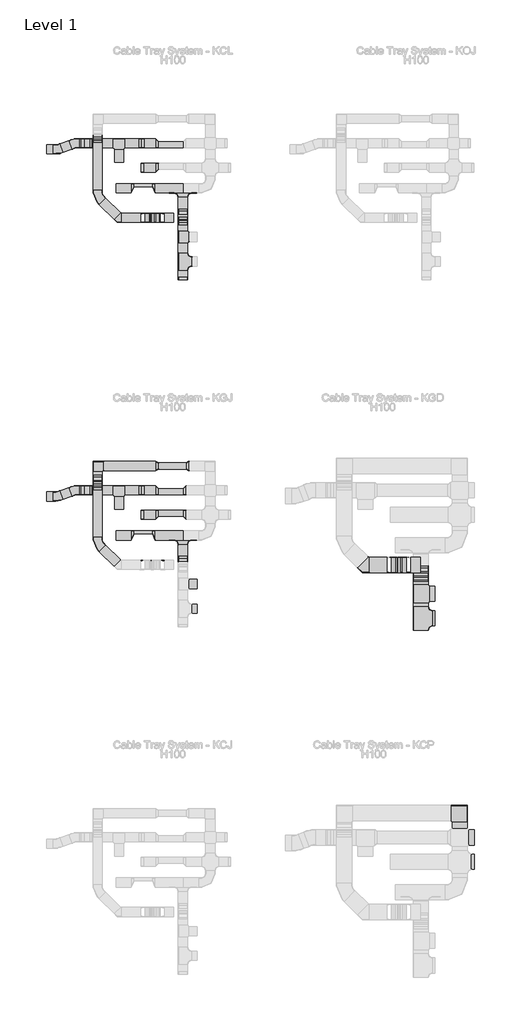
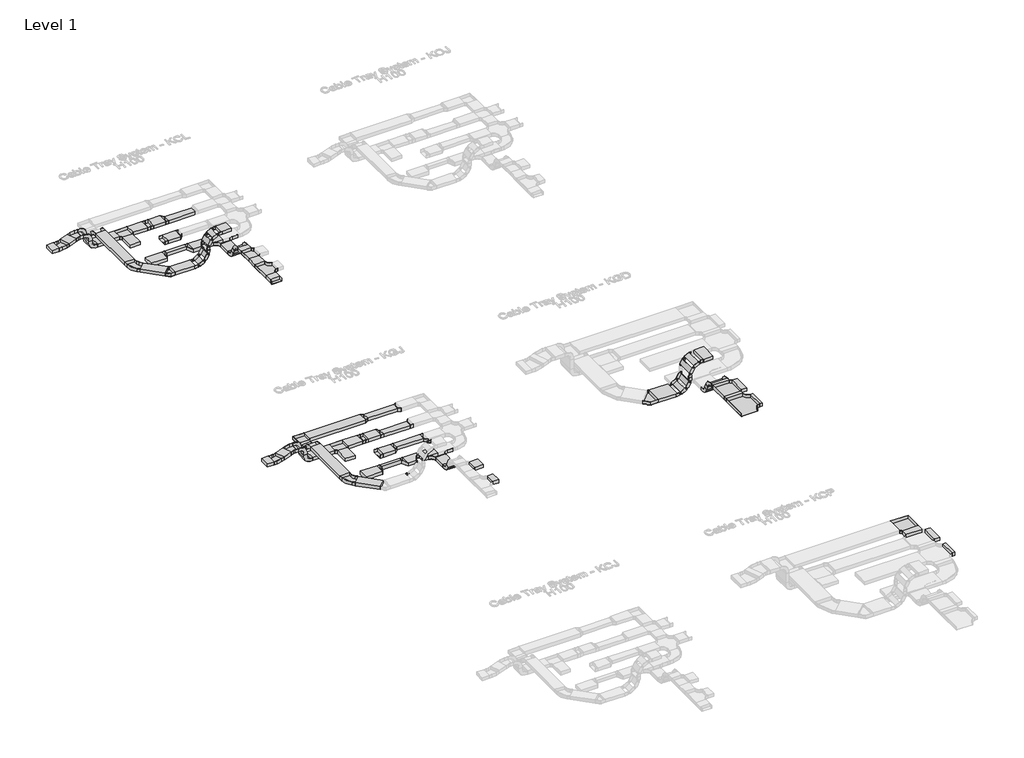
# One storey, part 20 of 106: 73 cable carrier fittings, 52 cable carrier segments.
"""IFC4 building model written with IfcOpenShell, lengths in millimetres."""

from ifc_helpers import new_model, si_unit, frame, origin, place, context, project, spatial, polyline, outline, extrude, transform, mapped, element, save
from components import cable_carrier_fitting_cb057536, cable_carrier_fitting_d4f283aa, cable_carrier_fitting_389af67d, cable_carrier_fitting_ab346bf8, cable_carrier_fitting_c163f1ca, cable_carrier_fitting_32826c86, cable_carrier_fitting_42195290, cable_carrier_fitting_1d3f857e, cable_carrier_fitting_81c76d70, cable_carrier_fitting_e69bf5bc, cable_carrier_fitting_b7b75895, cable_carrier_fitting_0afdfe74, cable_carrier_fitting_3a6d649d, cable_carrier_fitting_2d5aa353, cable_carrier_fitting_83230dc4, cable_carrier_fitting_3cbe9e62, cable_carrier_fitting_c86838e9, cable_carrier_fitting_985dcf24, cable_carrier_fitting_ca5a2d19, cable_carrier_fitting_8809d5a3, cable_carrier_fitting_385655bb, cable_carrier_fitting_dcc5a5fb, cable_carrier_fitting_57a60f3e, cable_carrier_fitting_2246cbb3, cable_carrier_fitting_0a0ebc2e, cable_carrier_fitting_3d71c57e, cable_carrier_fitting_46bfce34, cable_carrier_fitting_31e9e336, cable_carrier_fitting_f50788b4, cable_carrier_fitting_851eb94e, cable_carrier_fitting_844d2b92, cable_carrier_fitting_c0e00dde

model = new_model("IFC4")

# Units and contexts
model_context = context("Model", 3, world=origin())
ifc_project = project(units=[si_unit("LENGTHUNIT", "METRE", prefix="MILLI")], contexts=[model_context])

# Site, building, storey
site = spatial("IfcSite", under=ifc_project)
building = spatial("IfcBuilding", under=site)
storey = spatial("IfcBuildingStorey", under=building, Name="Level 1", Elevation=0.0)

# Cable carrier fittings
placement = place(None, origin())
cable_carrier_fitting_shape = cable_carrier_fitting_cb057536(model_context)
element("IfcCableCarrierFitting", 1, ObjectType="BAKS_BEND_Adjustable vertical bend element_EL : ELP_H100", at=placement, inside=storey, context=model_context, shape_type="MappedRepresentation", body=[
    mapped(cable_carrier_fitting_shape, transform((158633.2340999, 43331.3714214, 322.7153903), x_axis=(0.4999999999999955, 0.0, 0.8660254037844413), y_axis=(0.0, 1.0, 0.0), z_axis=(-0.8660254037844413, 0.0, 0.4999999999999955))),
])
element("IfcCableCarrierFitting", 2, ObjectType="BAKS_BEND_Adjustable vertical bend element_EL : ELP_H100", at=placement, inside=storey, context=model_context, shape_type="MappedRepresentation", body=[
    mapped(cable_carrier_fitting_shape, transform((158436.5219776, 43331.3714214, 223.0), x_axis=(0.8660254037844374, 0.0, 0.5000000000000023), y_axis=(0.0, 1.0, 0.0), z_axis=(-0.5000000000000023, 0.0, 0.8660254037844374))),
])
element("IfcCableCarrierFitting", 3, ObjectType="BAKS_BEND_Adjustable vertical bend element_EL : ELP_H100", at=placement, inside=storey, context=model_context, shape_type="MappedRepresentation", body=[
    mapped(cable_carrier_fitting_shape, transform((158841.4494902, 43331.3714214, 936.9011537), x_axis=(0.8660254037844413, 0.0, 0.4999999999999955), y_axis=(0.0, -1.0, 0.0), z_axis=(0.4999999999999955, 0.0, -0.8660254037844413))),
])
element("IfcCableCarrierFitting", 4, ObjectType="BAKS_BEND_Adjustable vertical bend element_EL : ELP_H100", at=placement, inside=storey, context=model_context, shape_type="MappedRepresentation", body=[
    mapped(cable_carrier_fitting_shape, transform((158741.7340999, 43331.3714214, 740.1890314), x_axis=(0.5000000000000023, 0.0, 0.8660254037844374), y_axis=(0.0, -1.0, 0.0), z_axis=(0.8660254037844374, 0.0, -0.5000000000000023))),
])
cable_carrier_fitting_2_shape = cable_carrier_fitting_d4f283aa(model_context)
element("IfcCableCarrierFitting", 5, ObjectType="BAKS_Reducer : RK(S/L/P)J_H100", at=placement, inside=storey, context=model_context, shape_type="MappedRepresentation", body=[
    mapped(cable_carrier_fitting_2_shape, transform((158399.3329462, 45780.8714214, 0.0), x_axis=(1.0, 0.0, 0.0), y_axis=(0.0, 1.0, 0.0), z_axis=(0.0, 0.0, 1.0))),
])
element("IfcCableCarrierFitting", 6, ObjectType="BAKS_Reducer : RK(S/L/P)J_H100", at=placement, inside=storey, context=model_context, shape_type="MappedRepresentation", body=[
    mapped(cable_carrier_fitting_2_shape, transform((158399.3329462, 45780.8714214, 0.0), x_axis=(-1.0, 0.0, 0.0), y_axis=(0.0, -1.0, 0.0), z_axis=(0.0, 0.0, 1.0))),
])
element("IfcCableCarrierFitting", 7, ObjectType="BAKS_Reducer : RK(S/L/P)J_H100", at=placement, inside=storey, context=model_context, shape_type="MappedRepresentation", body=[
    mapped(cable_carrier_fitting_2_shape, transform((158377.8329462, 44980.8714214, 0.0), x_axis=(1.0, 0.0, 0.0), y_axis=(0.0, 1.0, 0.0), z_axis=(0.0, 0.0, 1.0))),
])
element("IfcCableCarrierFitting", 8, ObjectType="BAKS_Reducer : RK(S/L/P)J_H100", at=placement, inside=storey, context=model_context, shape_type="MappedRepresentation", body=[
    mapped(cable_carrier_fitting_2_shape, transform((159753.8329462, 41294.2974728, 432.5277378), x_axis=(0.0, 1.0, 0.0), y_axis=(-1.0, 0.0, 0.0), z_axis=(0.0, 0.0, 1.0))),
])
element("IfcCableCarrierFitting", 9, ObjectType="BAKS_Reducer : RK(S/L/P)J_H100", at=placement, inside=storey, context=model_context, shape_type="MappedRepresentation", body=[
    mapped(cable_carrier_fitting_2_shape, transform((158399.3329462, 34380.8714214, 0.0), x_axis=(1.0, 0.0, 0.0), y_axis=(0.0, 1.0, 0.0), z_axis=(0.0, 0.0, 1.0))),
])
element("IfcCableCarrierFitting", 10, ObjectType="BAKS_Reducer : RK(S/L/P)J_H100", at=placement, inside=storey, context=model_context, shape_type="MappedRepresentation", body=[
    mapped(cable_carrier_fitting_2_shape, transform((158399.3329462, 34380.8714214, 0.0), x_axis=(-1.0, 0.0, 0.0), y_axis=(0.0, -1.0, 0.0), z_axis=(0.0, 0.0, 1.0))),
])
element("IfcCableCarrierFitting", 11, ObjectType="BAKS_Reducer : RK(S/L/P)J_H100", at=placement, inside=storey, context=model_context, shape_type="MappedRepresentation", body=[
    mapped(cable_carrier_fitting_2_shape, transform((158377.8329462, 33580.8714214, 0.0), x_axis=(1.0, 0.0, 0.0), y_axis=(0.0, 1.0, 0.0), z_axis=(0.0, 0.0, 1.0))),
])
cable_carrier_fitting_3_shape = cable_carrier_fitting_389af67d(model_context)
element("IfcCableCarrierFitting", 12, ObjectType="BAKS_Reducer : RK(S/L/P)J_H100", at=placement, inside=storey, context=model_context, shape_type="MappedRepresentation", body=[
    mapped(cable_carrier_fitting_3_shape, transform((158856.8329462, 35180.8714214, 0.0), x_axis=(1.0, 0.0, 0.0), y_axis=(0.0, 1.0, 0.0), z_axis=(0.0, 0.0, 1.0))),
])
cable_carrier_fitting_4_shape = cable_carrier_fitting_ab346bf8(model_context)
element("IfcCableCarrierFitting", 13, ObjectType="BAKS_Reducer : RK(S/L/P)J_H100", at=placement, inside=storey, context=model_context, shape_type="MappedRepresentation", body=[
    mapped(cable_carrier_fitting_4_shape, transform((159856.8329462, 35180.8714214, 0.0), x_axis=(1.0, 0.0, 0.0), y_axis=(0.0, 1.0, 0.0), z_axis=(0.0, 0.0, 1.0))),
])
cable_carrier_fitting_5_shape = cable_carrier_fitting_c163f1ca(model_context)
element("IfcCableCarrierFitting", 14, ObjectType="BAKS_Reducer : RK(S/L/P)J_H100", at=placement, inside=storey, context=model_context, shape_type="MappedRepresentation", body=[
    mapped(cable_carrier_fitting_5_shape, transform((158951.8329462, 45030.8714214, 0.0), x_axis=(-1.0, 0.0, 0.0), y_axis=(0.0, -1.0, 0.0), z_axis=(0.0, 0.0, 1.0))),
])
element("IfcCableCarrierFitting", 15, ObjectType="BAKS_Reducer : RK(S/L/P)J_H100", at=placement, inside=storey, context=model_context, shape_type="MappedRepresentation", body=[
    mapped(cable_carrier_fitting_5_shape, transform((159761.8329462, 34330.8714214, 0.0), x_axis=(1.0, 0.0, 0.0), y_axis=(0.0, 1.0, 0.0), z_axis=(0.0, 0.0, 1.0))),
])
element("IfcCableCarrierFitting", 16, ObjectType="BAKS_Reducer : RK(S/L/P)J_H100", at=placement, inside=storey, context=model_context, shape_type="MappedRepresentation", body=[
    mapped(cable_carrier_fitting_5_shape, transform((158951.8329462, 33630.8714214, 0.0), x_axis=(-1.0, 0.0, 0.0), y_axis=(0.0, -1.0, 0.0), z_axis=(0.0, 0.0, 1.0))),
])
cable_carrier_fitting_6_shape = cable_carrier_fitting_32826c86(model_context)
element("IfcCableCarrierFitting", 17, ObjectType="BAKS_Reducer : RK(S/L/P)J_H100", at=placement, inside=storey, context=model_context, shape_type="MappedRepresentation", body=[
    mapped(cable_carrier_fitting_6_shape, transform((158951.8329462, 45730.8714214, 0.0), x_axis=(-1.0, 0.0, 0.0), y_axis=(0.0, -1.0, 0.0), z_axis=(0.0, 0.0, 1.0))),
])
element("IfcCableCarrierFitting", 18, ObjectType="BAKS_Reducer : RK(S/L/P)J_H100", at=placement, inside=storey, context=model_context, shape_type="MappedRepresentation", body=[
    mapped(cable_carrier_fitting_6_shape, transform((158951.8329462, 34330.8714214, 0.0), x_axis=(-1.0, 0.0, 0.0), y_axis=(0.0, -1.0, 0.0), z_axis=(0.0, 0.0, 1.0))),
])
element("IfcCableCarrierFitting", 19, ObjectType="BAKS_Reducer : RK(S/L/P)J_H100", at=placement, inside=storey, context=model_context, shape_type="MappedRepresentation", body=[
    mapped(cable_carrier_fitting_6_shape, transform((159761.8329462, 33630.8714214, 0.0), x_axis=(1.0, 0.0, 0.0), y_axis=(0.0, 1.0, 0.0), z_axis=(0.0, 0.0, 1.0))),
])
cable_carrier_fitting_7_shape = cable_carrier_fitting_42195290(model_context)
element("IfcCableCarrierFitting", 20, ObjectType="BAKS_Horizontal bend : KKJ/KKMJ_H100", at=placement, inside=storey, context=model_context, shape_type="MappedRepresentation", body=[
    mapped(cable_carrier_fitting_7_shape, transform((156956.8329462, 35180.8714214, 0.0), x_axis=(-1.0, 0.0, 0.0), y_axis=(0.0, -1.0, 0.0), z_axis=(0.0, 0.0, 1.0))),
])
cable_carrier_fitting_8_shape = cable_carrier_fitting_1d3f857e(model_context)
element("IfcCableCarrierFitting", 21, ObjectType="BAKS_Horizontal bend radius : KKPJ/KKMPJ_H100", at=placement, inside=storey, context=model_context, shape_type="MappedRepresentation", body=[
    mapped(cable_carrier_fitting_8_shape, transform((156956.8329462, 44030.8714214, 235.0), x_axis=(0.0, -1.0, 0.0), y_axis=(1.0, 0.0, 0.0), z_axis=(0.0, 0.0, 1.0))),
])
element("IfcCableCarrierFitting", 22, ObjectType="BAKS_Horizontal bend radius : KKPJ/KKMPJ_H100", at=placement, inside=storey, context=model_context, shape_type="MappedRepresentation", body=[
    mapped(cable_carrier_fitting_8_shape, transform((156956.8329462, 32630.8714214, 235.0), x_axis=(0.0, -1.0, 0.0), y_axis=(1.0, 0.0, 0.0), z_axis=(0.0, 0.0, 1.0))),
])
cable_carrier_fitting_9_shape = cable_carrier_fitting_81c76d70(model_context)
element("IfcCableCarrierFitting", 23, ObjectType="BAKS_Horizontal addon tee : TKDJ_H100", at=placement, inside=storey, context=model_context, shape_type="MappedRepresentation", body=[
    mapped(cable_carrier_fitting_9_shape, transform((159753.8329462, 44299.8714214, 0.0), x_axis=(1.0, 0.0, 0.0), y_axis=(0.0, 1.0, 0.0), z_axis=(0.0, 0.0, 1.0))),
])
element("IfcCableCarrierFitting", 24, ObjectType="BAKS_Horizontal addon tee : TKDJ_H100", at=placement, inside=storey, context=model_context, shape_type="MappedRepresentation", body=[
    mapped(cable_carrier_fitting_9_shape, transform((159753.8329462, 32899.8714214, 0.0), x_axis=(1.0, 0.0, 0.0), y_axis=(0.0, 1.0, 0.0), z_axis=(0.0, 0.0, 1.0))),
])
cable_carrier_fitting_10_shape = cable_carrier_fitting_e69bf5bc(model_context)
element("IfcCableCarrierFitting", 25, ObjectType="BAKS_Reducer : RK(S/L/P)J_H100", at=placement, inside=storey, context=model_context, shape_type="MappedRepresentation", body=[
    mapped(cable_carrier_fitting_10_shape, transform((158750.8329462, 44399.8714214, 0.0), x_axis=(1.0, 0.0, 0.0), y_axis=(0.0, 1.0, 0.0), z_axis=(0.0, 0.0, 1.0))),
])
element("IfcCableCarrierFitting", 26, ObjectType="BAKS_Reducer : RK(S/L/P)J_H100", at=placement, inside=storey, context=model_context, shape_type="MappedRepresentation", body=[
    mapped(cable_carrier_fitting_10_shape, transform((158750.8329462, 32999.8714214, 0.0), x_axis=(1.0, 0.0, 0.0), y_axis=(0.0, 1.0, 0.0), z_axis=(0.0, 0.0, 1.0))),
])
cable_carrier_fitting_11_shape = cable_carrier_fitting_b7b75895(model_context)
element("IfcCableCarrierFitting", 27, ObjectType="BAKS_Reducer : RK(S/L/P)J_H100", at=placement, inside=storey, context=model_context, shape_type="MappedRepresentation", body=[
    mapped(cable_carrier_fitting_11_shape, transform((158152.8329462, 44399.8714214, 0.0), x_axis=(-1.0, 0.0, 0.0), y_axis=(0.0, -1.0, 0.0), z_axis=(0.0, 0.0, 1.0))),
])
element("IfcCableCarrierFitting", 28, ObjectType="BAKS_Reducer : RK(S/L/P)J_H100", at=placement, inside=storey, context=model_context, shape_type="MappedRepresentation", body=[
    mapped(cable_carrier_fitting_11_shape, transform((158152.8329462, 32999.8714214, 0.0), x_axis=(-1.0, 0.0, 0.0), y_axis=(0.0, -1.0, 0.0), z_axis=(0.0, 0.0, 1.0))),
])
cable_carrier_fitting_12_shape = cable_carrier_fitting_0afdfe74(model_context)
element("IfcCableCarrierFitting", 29, ObjectType="BAKS_Horizontal tee : TKJ_H100", at=placement, inside=storey, context=model_context, shape_type="MappedRepresentation", body=[
    mapped(cable_carrier_fitting_12_shape, transform((157656.3329462, 45780.8714214, 0.0), x_axis=(1.0, 0.0, 0.0), y_axis=(0.0, 1.0, 0.0), z_axis=(0.0, 0.0, 1.0))),
])
element("IfcCableCarrierFitting", 30, ObjectType="BAKS_Horizontal tee : TKJ_H100", at=placement, inside=storey, context=model_context, shape_type="MappedRepresentation", body=[
    mapped(cable_carrier_fitting_12_shape, transform((159753.8329462, 42703.8631068, 432.5277378), x_axis=(0.0, 1.0, 0.0), y_axis=(-1.0, 0.0, 0.0), z_axis=(0.0, 0.0, 1.0))),
])
element("IfcCableCarrierFitting", 31, ObjectType="BAKS_Horizontal tee : TKJ_H100", at=placement, inside=storey, context=model_context, shape_type="MappedRepresentation", body=[
    mapped(cable_carrier_fitting_12_shape, transform((157656.3329462, 34380.8714214, 0.0), x_axis=(1.0, 0.0, 0.0), y_axis=(0.0, 1.0, 0.0), z_axis=(0.0, 0.0, 1.0))),
])
cable_carrier_fitting_13_shape = cable_carrier_fitting_3a6d649d(model_context)
element("IfcCableCarrierFitting", 32, ObjectType="BAKS_Horizontal bend radius : KKPJ/KKMPJ_H100", at=placement, inside=storey, context=model_context, shape_type="MappedRepresentation", body=[
    mapped(cable_carrier_fitting_13_shape, transform((156186.1981218, 45780.8714214, 438.0), x_axis=(-1.0, 0.0, 0.0), y_axis=(0.0, -1.0, 0.0), z_axis=(0.0, 0.0, 1.0))),
])
element("IfcCableCarrierFitting", 33, ObjectType="BAKS_Horizontal bend radius : KKPJ/KKMPJ_H100", at=placement, inside=storey, context=model_context, shape_type="MappedRepresentation", body=[
    mapped(cable_carrier_fitting_13_shape, transform((155630.7130894, 45578.691404, 438.0), x_axis=(1.0, 0.0, 0.0), y_axis=(0.0, 1.0, 0.0), z_axis=(0.0, 0.0, 1.0))),
])
element("IfcCableCarrierFitting", 34, ObjectType="BAKS_Horizontal bend radius : KKPJ/KKMPJ_H100", at=placement, inside=storey, context=model_context, shape_type="MappedRepresentation", body=[
    mapped(cable_carrier_fitting_13_shape, transform((156186.1981218, 34380.8714214, 438.0), x_axis=(-1.0, 0.0, 0.0), y_axis=(0.0, -1.0, 0.0), z_axis=(0.0, 0.0, 1.0))),
])
element("IfcCableCarrierFitting", 35, ObjectType="BAKS_Horizontal bend radius : KKPJ/KKMPJ_H100", at=placement, inside=storey, context=model_context, shape_type="MappedRepresentation", body=[
    mapped(cable_carrier_fitting_13_shape, transform((155630.7130894, 34178.691404, 438.0), x_axis=(1.0, 0.0, 0.0), y_axis=(0.0, 1.0, 0.0), z_axis=(0.0, 0.0, 1.0))),
])
cable_carrier_fitting_14_shape = cable_carrier_fitting_2d5aa353(model_context)
element("IfcCableCarrierFitting", 36, ObjectType="BAKS_BEND_Articulated connector_LGP : LGP_H100", at=placement, inside=storey, context=model_context, shape_type="MappedRepresentation", body=[
    mapped(cable_carrier_fitting_14_shape, transform((158457.3065873, 43181.3714214, 235.0), x_axis=(1.0, 0.0, 0.0), y_axis=(0.0, 0.0, 1.0), z_axis=(0.0, -1.0, 0.0))),
])
element("IfcCableCarrierFitting", 37, ObjectType="BAKS_BEND_Articulated connector_LGP : LGP_H100", at=placement, inside=storey, context=model_context, shape_type="MappedRepresentation", body=[
    mapped(cable_carrier_fitting_14_shape, transform((158753.7340999, 43481.3714214, 760.9736411), x_axis=(0.0, 0.0, 1.0), y_axis=(1.0, 0.0, 0.0), z_axis=(0.0, 1.0, 0.0))),
])
element("IfcCableCarrierFitting", 38, ObjectType="BAKS_BEND_Articulated connector_LGP : LGP_H100", at=placement, inside=storey, context=model_context, shape_type="MappedRepresentation", body=[
    mapped(cable_carrier_fitting_14_shape, transform((158753.7340999, 32081.3714214, 760.9736411), x_axis=(0.0, 0.0, 1.0), y_axis=(1.0, 0.0, 0.0), z_axis=(0.0, 1.0, 0.0))),
])
element("IfcCableCarrierFitting", 39, ObjectType="BAKS_BEND_Articulated connector_LGP : LGP_H100", at=placement, inside=storey, context=model_context, shape_type="MappedRepresentation", body=[
    mapped(cable_carrier_fitting_14_shape, transform((166557.3065873, 31681.3714214, 235.0), x_axis=(1.0, 0.0, 0.0), y_axis=(0.0, 0.0, 1.0), z_axis=(0.0, -1.0, 0.0))),
])
cable_carrier_fitting_15_shape = cable_carrier_fitting_83230dc4(model_context)
element("IfcCableCarrierFitting", 40, ObjectType="BAKS_BEND_Articulated connector_LGP : LGP_H100", at=placement, inside=storey, context=model_context, shape_type="MappedRepresentation", body=[
    mapped(cable_carrier_fitting_15_shape, transform((158753.7340999, 43181.3714214, 531.4275126), x_axis=(0.4999999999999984, 0.0, 0.8660254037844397), y_axis=(-0.8660254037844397, 0.0, 0.4999999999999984), z_axis=(0.0, -1.0, 0.0))),
])
element("IfcCableCarrierFitting", 41, ObjectType="BAKS_BEND_Articulated connector_LGP : LGP_H100", at=placement, inside=storey, context=model_context, shape_type="MappedRepresentation", body=[
    mapped(cable_carrier_fitting_15_shape, transform((159050.1616126, 43481.3714214, 1057.4011537), x_axis=(0.8660254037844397, 0.0, 0.4999999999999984), y_axis=(0.4999999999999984, 0.0, -0.8660254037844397), z_axis=(0.0, 1.0, 0.0))),
])
element("IfcCableCarrierFitting", 42, ObjectType="BAKS_BEND_Articulated connector_LGP : LGP_H100", at=placement, inside=storey, context=model_context, shape_type="MappedRepresentation", body=[
    mapped(cable_carrier_fitting_15_shape, transform((159050.1616126, 32081.3714214, 1057.4011537), x_axis=(0.8660254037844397, 0.0, 0.4999999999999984), y_axis=(0.4999999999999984, 0.0, -0.8660254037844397), z_axis=(0.0, 1.0, 0.0))),
])
element("IfcCableCarrierFitting", 43, ObjectType="BAKS_BEND_Articulated connector_LGP : LGP_H100", at=placement, inside=storey, context=model_context, shape_type="MappedRepresentation", body=[
    mapped(cable_carrier_fitting_15_shape, transform((166853.7340999, 31681.3714214, 531.4275126), x_axis=(0.4999999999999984, 0.0, 0.8660254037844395), y_axis=(-0.8660254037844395, 0.0, 0.4999999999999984), z_axis=(0.0, -1.0, 0.0))),
])
cable_carrier_fitting_16_shape = cable_carrier_fitting_3cbe9e62(model_context)
element("IfcCableCarrierFitting", 44, ObjectType="BAKS_BEND_Articulated connector_LGP : LGP_H100", at=placement, inside=storey, context=model_context, shape_type="MappedRepresentation", body=[
    mapped(cable_carrier_fitting_16_shape, transform((158753.7340999, 43481.3714214, 531.4275126), x_axis=(0.4999999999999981, 0.0, 0.8660254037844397), y_axis=(0.8660254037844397, 0.0, -0.4999999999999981), z_axis=(0.0, 1.0, 0.0))),
])
element("IfcCableCarrierFitting", 45, ObjectType="BAKS_BEND_Articulated connector_LGP : LGP_H100", at=placement, inside=storey, context=model_context, shape_type="MappedRepresentation", body=[
    mapped(cable_carrier_fitting_16_shape, transform((159050.1616126, 43181.3714214, 1057.4011537), x_axis=(0.8660254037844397, 0.0, 0.4999999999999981), y_axis=(-0.4999999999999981, 0.0, 0.8660254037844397), z_axis=(0.0, -1.0, 0.0))),
])
element("IfcCableCarrierFitting", 46, ObjectType="BAKS_BEND_Articulated connector_LGP : LGP_H100", at=placement, inside=storey, context=model_context, shape_type="MappedRepresentation", body=[
    mapped(cable_carrier_fitting_16_shape, transform((158753.7340999, 32081.3714214, 531.4275126), x_axis=(0.4999999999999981, 0.0, 0.8660254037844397), y_axis=(0.8660254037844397, 0.0, -0.4999999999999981), z_axis=(0.0, 1.0, 0.0))),
])
element("IfcCableCarrierFitting", 47, ObjectType="BAKS_BEND_Articulated connector_LGP : LGP_H100", at=placement, inside=storey, context=model_context, shape_type="MappedRepresentation", body=[
    mapped(cable_carrier_fitting_16_shape, transform((167150.1616126, 31681.3714214, 1057.4011537), x_axis=(0.8660254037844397, 0.0, 0.4999999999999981), y_axis=(-0.4999999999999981, 0.0, 0.8660254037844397), z_axis=(0.0, -1.0, 0.0))),
])
cable_carrier_fitting_17_shape = cable_carrier_fitting_c86838e9(model_context)
element("IfcCableCarrierFitting", 48, ObjectType="BAKS_BEND_Articulated connector_LGP : LGP_H100", at=placement, inside=storey, context=model_context, shape_type="MappedRepresentation", body=[
    mapped(cable_carrier_fitting_17_shape, transform((158457.3065873, 43481.3714214, 235.0), x_axis=(1.0, 0.0, 0.0), y_axis=(0.0, 0.0, -1.0), z_axis=(0.0, 1.0, 0.0))),
])
element("IfcCableCarrierFitting", 49, ObjectType="BAKS_BEND_Articulated connector_LGP : LGP_H100", at=placement, inside=storey, context=model_context, shape_type="MappedRepresentation", body=[
    mapped(cable_carrier_fitting_17_shape, transform((158753.7340999, 43181.3714214, 760.9736411), x_axis=(0.0, 0.0, 1.0), y_axis=(-1.0, 0.0, 0.0), z_axis=(0.0, -1.0, 0.0))),
])
element("IfcCableCarrierFitting", 50, ObjectType="BAKS_BEND_Articulated connector_LGP : LGP_H100", at=placement, inside=storey, context=model_context, shape_type="MappedRepresentation", body=[
    mapped(cable_carrier_fitting_17_shape, transform((158457.3065873, 32081.3714214, 235.0), x_axis=(1.0, 0.0, 0.0), y_axis=(0.0, 0.0, -1.0), z_axis=(0.0, 1.0, 0.0))),
])
element("IfcCableCarrierFitting", 51, ObjectType="BAKS_BEND_Articulated connector_LGP : LGP_H100", at=placement, inside=storey, context=model_context, shape_type="MappedRepresentation", body=[
    mapped(cable_carrier_fitting_17_shape, transform((166853.7340999, 31681.3714214, 760.9736411), x_axis=(0.0, 0.0, 1.0), y_axis=(-1.0, 0.0, 0.0), z_axis=(0.0, -1.0, 0.0))),
])
cable_carrier_fitting_18_shape = cable_carrier_fitting_985dcf24(model_context)
element("IfcCableCarrierFitting", 52, ObjectType="BAKS_Horizontal bend : KKJ/KKMJ_H100", at=placement, inside=storey, context=model_context, shape_type="MappedRepresentation", body=[
    mapped(cable_carrier_fitting_18_shape, transform((157656.3329462, 43331.3714214, 235.0), x_axis=(0.707106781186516, -0.707106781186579, 0.0), y_axis=(0.707106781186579, 0.707106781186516, 0.0), z_axis=(0.0, 0.0, 1.0))),
])
cable_carrier_fitting_19_shape = cable_carrier_fitting_ca5a2d19(model_context)
element("IfcCableCarrierFitting", 53, ObjectType="BAKS_Horizontal tee radius : TKPJ_H100", at=placement, inside=storey, context=model_context, shape_type="MappedRepresentation", body=[
    mapped(cable_carrier_fitting_19_shape, transform((159753.8329462, 41896.5802898, 432.5277378), x_axis=(0.0, 1.0, 0.0), y_axis=(-1.0, 0.0, 0.0), z_axis=(0.0, 0.0, 1.0))),
])
cable_carrier_fitting_20_shape = cable_carrier_fitting_8809d5a3(model_context)
element("IfcCableCarrierFitting", 54, ObjectType="BAKS_Horizontal tee : TKJ_H100", at=placement, inside=storey, context=model_context, shape_type="MappedRepresentation", body=[
    mapped(cable_carrier_fitting_20_shape, transform((167573.8329462, 30983.8631068, 432.5277378), x_axis=(0.0, 1.0, 0.0), y_axis=(-1.0, 0.0, 0.0), z_axis=(0.0, 0.0, 1.0))),
])
cable_carrier_fitting_21_shape = cable_carrier_fitting_385655bb(model_context)
element("IfcCableCarrierFitting", 55, ObjectType="BAKS_Horizontal tee radius : TKPJ_H100", at=placement, inside=storey, context=model_context, shape_type="MappedRepresentation", body=[
    mapped(cable_carrier_fitting_21_shape, transform((167573.8329462, 30176.5802898, 432.5277378), x_axis=(0.0, 1.0, 0.0), y_axis=(-1.0, 0.0, 0.0), z_axis=(0.0, 0.0, 1.0))),
])
cable_carrier_fitting_22_shape = cable_carrier_fitting_dcc5a5fb(model_context)
element("IfcCableCarrierFitting", 56, ObjectType="BAKS_Horizontal bend : KKP/KKMP_H100", at=placement, inside=storey, context=model_context, shape_type="MappedRepresentation", body=[
    mapped(cable_carrier_fitting_22_shape, transform((168856.8329462, 23780.8714214, 0.0), x_axis=(0.0, 1.0, 0.0), y_axis=(-1.0, 0.0, 0.0), z_axis=(0.0, 0.0, 1.0))),
])
cable_carrier_fitting_23_shape = cable_carrier_fitting_57a60f3e(model_context)
element("IfcCableCarrierFitting", 57, ObjectType="BAKS_Horizontal bend : KKP/KKMP_H100", at=placement, inside=storey, context=model_context, shape_type="MappedRepresentation", body=[
    mapped(cable_carrier_fitting_23_shape, transform((165756.3329462, 31931.3714214, 235.0), x_axis=(0.707106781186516, -0.707106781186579, 0.0), y_axis=(0.707106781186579, 0.707106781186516, 0.0), z_axis=(0.0, 0.0, 1.0))),
])
cable_carrier_fitting_24_shape = cable_carrier_fitting_2246cbb3(model_context)
element("IfcCableCarrierFitting", 58, ObjectType="BAKS_BEND_Adjustable vertical bend element_EL : ELP_H100", at=placement, inside=storey, context=model_context, shape_type="MappedRepresentation", body=[
    mapped(cable_carrier_fitting_24_shape, transform((166733.2340999, 31931.3714214, 322.7153903), x_axis=(0.4999999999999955, 0.0, 0.8660254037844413), y_axis=(0.0, 1.0, 0.0), z_axis=(-0.8660254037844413, 0.0, 0.4999999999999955))),
])
element("IfcCableCarrierFitting", 59, ObjectType="BAKS_BEND_Adjustable vertical bend element_EL : ELP_H100", at=placement, inside=storey, context=model_context, shape_type="MappedRepresentation", body=[
    mapped(cable_carrier_fitting_24_shape, transform((166536.5219776, 31931.3714214, 223.0), x_axis=(0.8660254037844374, 0.0, 0.5000000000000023), y_axis=(0.0, 1.0, 0.0), z_axis=(-0.5000000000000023, 0.0, 0.8660254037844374))),
])
element("IfcCableCarrierFitting", 60, ObjectType="BAKS_BEND_Adjustable vertical bend element_EL : ELP_H100", at=placement, inside=storey, context=model_context, shape_type="MappedRepresentation", body=[
    mapped(cable_carrier_fitting_24_shape, transform((166941.4494902, 31931.3714214, 936.9011537), x_axis=(0.8660254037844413, 0.0, 0.4999999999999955), y_axis=(0.0, -1.0, 0.0), z_axis=(0.4999999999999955, 0.0, -0.8660254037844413))),
])
element("IfcCableCarrierFitting", 61, ObjectType="BAKS_BEND_Adjustable vertical bend element_EL : ELP_H100", at=placement, inside=storey, context=model_context, shape_type="MappedRepresentation", body=[
    mapped(cable_carrier_fitting_24_shape, transform((166841.7340999, 31931.3714214, 740.1890314), x_axis=(0.5000000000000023, 0.0, 0.8660254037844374), y_axis=(0.0, -1.0, 0.0), z_axis=(0.8660254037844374, 0.0, -0.5000000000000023))),
])
cable_carrier_fitting_25_shape = cable_carrier_fitting_0a0ebc2e(model_context)
element("IfcCableCarrierFitting", 62, ObjectType="BAKS_KK_Vertical bend INTERNAL_LU : LUNJ_H100", at=placement, inside=storey, context=model_context, shape_type="MappedRepresentation", body=[
    mapped(cable_carrier_fitting_25_shape, transform((156556.3329462, 45780.8714214, 438.0), x_axis=(0.0, 0.0, 1.0), y_axis=(-1.0, 0.0, 0.0), z_axis=(0.0, -1.0, 0.0))),
])
element("IfcCableCarrierFitting", 63, ObjectType="BAKS_KK_Vertical bend INTERNAL_LU : LUNJ_H100", at=placement, inside=storey, context=model_context, shape_type="MappedRepresentation", body=[
    mapped(cable_carrier_fitting_25_shape, transform((156556.3329462, 34380.8714214, 438.0), x_axis=(0.0, 0.0, 1.0), y_axis=(-1.0, 0.0, 0.0), z_axis=(0.0, -1.0, 0.0))),
])
cable_carrier_fitting_26_shape = cable_carrier_fitting_3d71c57e(model_context)
element("IfcCableCarrierFitting", 64, ObjectType="BAKS_KK_Vertical bend INTERNAL_LU : LUMNP_H100", at=placement, inside=storey, context=model_context, shape_type="MappedRepresentation", body=[
    mapped(cable_carrier_fitting_26_shape, transform((167573.8329462, 31537.0146558, 432.5277378), x_axis=(0.0, -0.42261826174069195, 0.9063077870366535), y_axis=(0.0, -0.9063077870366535, -0.42261826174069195), z_axis=(1.0, 0.0, 0.0))),
])
cable_carrier_fitting_27_shape = cable_carrier_fitting_46bfce34(model_context)
element("IfcCableCarrierFitting", 65, ObjectType="BAKS_KK_Vertical bend EXTERNAL_LU : LUNJ_H100", at=placement, inside=storey, context=model_context, shape_type="MappedRepresentation", body=[
    mapped(cable_carrier_fitting_27_shape, transform((156556.3329462, 45780.8714214, 0.0), x_axis=(-1.0, 0.0, 0.0), y_axis=(0.0, 0.0, 1.0), z_axis=(0.0, 1.0, 0.0))),
])
element("IfcCableCarrierFitting", 66, ObjectType="BAKS_KK_Vertical bend EXTERNAL_LU : LUNJ_H100", at=placement, inside=storey, context=model_context, shape_type="MappedRepresentation", body=[
    mapped(cable_carrier_fitting_27_shape, transform((156556.3329462, 34380.8714214, 0.0), x_axis=(-1.0, 0.0, 0.0), y_axis=(0.0, 0.0, 1.0), z_axis=(0.0, 1.0, 0.0))),
])
cable_carrier_fitting_28_shape = cable_carrier_fitting_31e9e336(model_context)
element("IfcCableCarrierFitting", 67, ObjectType="BAKS_KK_Vertical bend EXTERNAL_LU : LUNJ_H100", at=placement, inside=storey, context=model_context, shape_type="MappedRepresentation", body=[
    mapped(cable_carrier_fitting_28_shape, transform((167573.8329462, 31738.7056523, 0.0), x_axis=(0.0, -1.0, 0.0), y_axis=(0.0, 0.0, 1.0), z_axis=(-1.0, 0.0, 0.0))),
])
cable_carrier_fitting_29_shape = cable_carrier_fitting_f50788b4(model_context)
element("IfcCableCarrierFitting", 68, ObjectType="BAKS_KK_Vertical bend EXTERNAL_LU : LUMNJ_H100", at=placement, inside=storey, context=model_context, shape_type="MappedRepresentation", body=[
    mapped(cable_carrier_fitting_29_shape, transform((159753.8329462, 43458.7056523, 0.0), x_axis=(0.0, -1.0, 0.0), y_axis=(0.0, 0.0, 1.0), z_axis=(-1.0, 0.0, 0.0))),
])
element("IfcCableCarrierFitting", 69, ObjectType="BAKS_KK_Vertical bend EXTERNAL_LU : LUMNJ_H100", at=placement, inside=storey, context=model_context, shape_type="MappedRepresentation", body=[
    mapped(cable_carrier_fitting_29_shape, transform((159753.8329462, 32058.7056523, 0.0), x_axis=(0.0, -1.0, 0.0), y_axis=(0.0, 0.0, 1.0), z_axis=(-1.0, 0.0, 0.0))),
])
cable_carrier_fitting_30_shape = cable_carrier_fitting_851eb94e(model_context)
element("IfcCableCarrierFitting", 70, ObjectType="BAKS_KK_Vertical bend EXTERNAL_LU : LUMNJ_H100", at=placement, inside=storey, context=model_context, shape_type="MappedRepresentation", body=[
    mapped(cable_carrier_fitting_30_shape, transform((156956.8329462, 34760.8714214, 0.0), x_axis=(0.0, -1.0, 0.0), y_axis=(0.0, 0.0, 1.0), z_axis=(-1.0, 0.0, 0.0))),
])
cable_carrier_fitting_31_shape = cable_carrier_fitting_844d2b92(model_context)
element("IfcCableCarrierFitting", 71, ObjectType="BAKS_KK_Vertical bend INTERNAL_LU : LUMNJ_H100", at=placement, inside=storey, context=model_context, shape_type="MappedRepresentation", body=[
    mapped(cable_carrier_fitting_31_shape, transform((159753.8329462, 43257.0146558, 432.5277378), x_axis=(0.0, -0.42261826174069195, 0.9063077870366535), y_axis=(0.0, -0.9063077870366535, -0.42261826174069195), z_axis=(1.0, 0.0, 0.0))),
])
cable_carrier_fitting_32_shape = cable_carrier_fitting_c0e00dde(model_context)
element("IfcCableCarrierFitting", 72, ObjectType="BAKS_KK_Vertical bend INTERNAL_LU : LUMNJ_H100", at=placement, inside=storey, context=model_context, shape_type="MappedRepresentation", body=[
    mapped(cable_carrier_fitting_32_shape, transform((156956.8329462, 45925.8714214, 235.0), x_axis=(0.0, 1.0, 0.0), y_axis=(0.0, 0.0, -1.0), z_axis=(-1.0, 0.0, 0.0))),
])
element("IfcCableCarrierFitting", 73, ObjectType="BAKS_KK_Vertical bend INTERNAL_LU : LUMNJ_H100", at=placement, inside=storey, context=model_context, shape_type="MappedRepresentation", body=[
    mapped(cable_carrier_fitting_32_shape, transform((156956.8329462, 34525.8714214, 235.0), x_axis=(0.0, 1.0, 0.0), y_axis=(0.0, 0.0, -1.0), z_axis=(-1.0, 0.0, 0.0))),
])

# Cable carrier segments
element("IfcCableCarrierSegment", 74, ObjectType="BAKS - Cable tray H100 (KCL)", at=placement, inside=storey, context=model_context, shape_type="SweptSolid", body=[
    extrude(outline(polyline([(159761.8329462, 45830.8714214), (159761.8329462, 45630.8714214), (158951.8329462, 45630.8714214), (158951.8329462, 45830.8714214), (159761.8329462, 45830.8714214)])), frame((0.0, 0.0, -50.0), z_axis=(0.0, 0.0, 1.0), x_axis=(1.0, 0.0, 0.0)), (0.0, 0.0, 1.0), 100.0),
])
element("IfcCableCarrierSegment", 75, ObjectType="BAKS - Cable tray H100 (KCL)", at=placement, inside=storey, context=model_context, shape_type="SweptSolid", body=[
    extrude(outline(polyline([(158494.3329462, 45630.8714214), (158494.3329462, 45930.8714214), (158856.8329462, 45930.8714214), (158856.8329462, 45630.8714214), (158494.3329462, 45630.8714214)])), frame((0.0, 0.0, -50.0), z_axis=(0.0, 0.0, 1.0), x_axis=(1.0, 0.0, 0.0)), (0.0, 0.0, 1.0), 100.0),
])
element("IfcCableCarrierSegment", 76, ObjectType="BAKS - Cable tray H100 (KCL)", at=placement, inside=storey, context=model_context, shape_type="SweptSolid", body=[
    extrude(outline(polyline([(158472.8329462, 44830.8714214), (158472.8329462, 45130.8714214), (158856.8329462, 45130.8714214), (158856.8329462, 44830.8714214), (158472.8329462, 44830.8714214)])), frame((0.0, 0.0, -50.0), z_axis=(0.0, 0.0, 1.0), x_axis=(1.0, 0.0, 0.0)), (0.0, 0.0, 1.0), 100.0),
])
element("IfcCableCarrierSegment", 77, ObjectType="BAKS - Cable tray H100 (KCL)", at=placement, inside=storey, context=model_context, shape_type="SweptSolid", body=[
    extrude(outline(polyline([(157451.3329462, 45930.8714214), (157451.3329462, 45630.8714214), (156775.3329462, 45630.8714214), (156775.3329462, 45930.8714214), (157451.3329462, 45930.8714214)])), frame((0.0, 0.0, -50.0), z_axis=(0.0, 0.0, 1.0), x_axis=(1.0, 0.0, 0.0)), (0.0, 0.0, 1.0), 100.0),
])
element("IfcCableCarrierSegment", 78, ObjectType="BAKS - Cable tray H100 (KCL)", at=placement, inside=storey, context=model_context, shape_type="SweptSolid", body=[
    extrude(outline(polyline([(157506.3329462, 45575.8714214), (157806.3329462, 45575.8714214), (157806.3329462, 45155.8714214), (157506.3329462, 45155.8714214), (157506.3329462, 45575.8714214)])), frame((0.0, 0.0, -50.0), z_axis=(0.0, 0.0, 1.0), x_axis=(1.0, 0.0, 0.0)), (0.0, 0.0, 1.0), 100.0),
])
element("IfcCableCarrierSegment", 79, ObjectType="BAKS - Cable tray H100 (KCL)", at=placement, inside=storey, context=model_context, shape_type="SweptSolid", body=[
    extrude(outline(polyline([(158304.3329462, 45930.8714214), (158304.3329462, 45630.8714214), (157861.3329462, 45630.8714214), (157861.3329462, 45930.8714214), (158304.3329462, 45930.8714214)])), frame((0.0, 0.0, -50.0), z_axis=(0.0, 0.0, 1.0), x_axis=(1.0, 0.0, 0.0)), (0.0, 0.0, 1.0), 100.0),
])
element("IfcCableCarrierSegment", 80, ObjectType="BAKS - Cable tray H100 (KCL)", at=placement, inside=storey, context=model_context, shape_type="SweptSolid", body=[
    extrude(outline(polyline([(157106.8329462, 44250.9933545), (156806.8329462, 44250.9933545), (156806.8329462, 45791.8104549), (157106.8329462, 45791.8104549), (157106.8329462, 44250.9933545)])), frame((0.0, 0.0, 185.0), z_axis=(0.0, 0.0, 1.0), x_axis=(1.0, 0.0, 0.0)), (0.0, 0.0, 1.0), 100.0),
])
element("IfcCableCarrierSegment", 81, ObjectType="BAKS - Cable tray H100 (KCL)", at=placement, inside=storey, context=model_context, shape_type="SweptSolid", body=[
    extrude(outline(polyline([(157006.4166406, 43769.1556926), (157218.548675, 43981.287727), (157704.577679, 43495.258723), (157492.4456446, 43283.1266887), (157006.4166406, 43769.1556926)])), frame((0.0, 0.0, 185.0), z_axis=(0.0, 0.0, 1.0), x_axis=(1.0, 0.0, 0.0)), (0.0, 0.0, 1.0), 100.0),
])
element("IfcCableCarrierSegment", 82, ObjectType="BAKS - Cable tray H100 (KCL)", at=placement, inside=storey, context=model_context, shape_type="SweptSolid", body=[
    extrude(outline(polyline([(159150.1616126, 43181.3714214), (159150.1616126, 43481.3714214), (159453.7340999, 43481.3714214), (159453.7340999, 43181.3714214), (159150.1616126, 43181.3714214)])), frame((0.0, 0.0, 1007.4011537), z_axis=(0.0, 0.0, 1.0), x_axis=(1.0, 0.0, 0.0)), (0.0, 0.0, 1.0), 100.0),
])
element("IfcCableCarrierSegment", 83, ObjectType="BAKS - Cable tray H100 (KCL)", at=placement, inside=storey, context=model_context, shape_type="SweptSolid", body=[
    extrude(outline(polyline([(159603.8329462, 44002.3314214), (159903.8329462, 44002.3314214), (159903.8329462, 43625.0808401), (159603.8329462, 43625.0808401), (159603.8329462, 44002.3314214)])), frame((0.0, 0.0, -50.0), z_axis=(0.0, 0.0, 1.0), x_axis=(1.0, 0.0, 0.0)), (0.0, 0.0, 1.0), 100.0),
])
element("IfcCableCarrierSegment", 84, ObjectType="BAKS - Cable tray H100 (KCL)", at=placement, inside=storey, context=model_context, shape_type="SweptSolid", body=[
    extrude(outline(polyline([(-150.0, 108.113883), (-150.0, 208.113883), (150.0, 208.113883), (150.0, 108.113883), (-150.0, 108.113883)])), frame((159753.8329462, 43245.0926162, 83.9653139), z_axis=(0.0, -0.4226182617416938, 0.9063077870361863), x_axis=(1.0, 0.0, 0.0)), (0.0, 0.0, 1.0), 144.4911796),
])
element("IfcCableCarrierSegment", 85, ObjectType="BAKS - Cable tray H100 (KCL)", at=placement, inside=storey, context=model_context, shape_type="SweptSolid", body=[
    extrude(outline(polyline([(159603.8329462, 41601.5802898), (159903.8329462, 41601.5802898), (159903.8329462, 41389.2974728), (159603.8329462, 41389.2974728), (159603.8329462, 41601.5802898)])), frame((0.0, 0.0, 382.5277378), z_axis=(0.0, 0.0, 1.0), x_axis=(1.0, 0.0, 0.0)), (0.0, 0.0, 1.0), 100.0),
])
element("IfcCableCarrierSegment", 86, ObjectType="BAKS - Cable tray H100 (KCL)", at=placement, inside=storey, context=model_context, shape_type="SweptSolid", body=[
    extrude(outline(polyline([(159603.8329462, 42498.8631068), (159903.8329462, 42498.8631068), (159903.8329462, 42191.5802898), (159603.8329462, 42191.5802898), (159603.8329462, 42498.8631068)])), frame((0.0, 0.0, 382.5277378), z_axis=(0.0, 0.0, 1.0), x_axis=(1.0, 0.0, 0.0)), (0.0, 0.0, 1.0), 100.0),
])
element("IfcCableCarrierSegment", 87, ObjectType="BAKS - Cable tray H100 (KCL)", at=placement, inside=storey, context=model_context, shape_type="SweptSolid", body=[
    extrude(outline(polyline([(159903.8329462, 42908.8631068), (159603.8329462, 42908.8631068), (159603.8329462, 43090.6394679), (159903.8329462, 43090.6394679), (159903.8329462, 42908.8631068)])), frame((0.0, 0.0, 382.5277378), z_axis=(0.0, 0.0, 1.0), x_axis=(1.0, 0.0, 0.0)), (0.0, 0.0, 1.0), 100.0),
])
element("IfcCableCarrierSegment", 88, ObjectType="BAKS - Cable tray H100 (KCL)", at=placement, inside=storey, context=model_context, shape_type="SweptSolid", body=[
    extrude(outline(polyline([(158152.8329462, 44349.8714214), (158152.8329462, 44449.8714214), (158750.8329462, 44449.8714214), (158750.8329462, 44349.8714214), (158152.8329462, 44349.8714214)])), frame((0.0, 0.0, -50.0), z_axis=(0.0, 0.0, 1.0), x_axis=(1.0, 0.0, 0.0)), (0.0, 0.0, 1.0), 100.0),
])
element("IfcCableCarrierSegment", 89, ObjectType="BAKS - Cable tray H100 (KCL)", at=placement, inside=storey, context=model_context, shape_type="SweptSolid", body=[
    extrude(outline(polyline([(158845.8329462, 44149.8714214), (158845.8329462, 44449.8714214), (159753.2908549, 44449.8714214), (159753.2908549, 44149.8714214), (158845.8329462, 44149.8714214)])), frame((0.0, 0.0, -50.0), z_axis=(0.0, 0.0, 1.0), x_axis=(1.0, 0.0, 0.0)), (0.0, 0.0, 1.0), 100.0),
])
element("IfcCableCarrierSegment", 90, ObjectType="BAKS - Cable tray H100 (KCL)", at=placement, inside=storey, context=model_context, shape_type="SweptSolid", body=[
    extrude(outline(polyline([(158057.8329462, 44449.8714214), (158057.8329462, 44149.8714214), (157556.8329462, 44149.8714214), (157556.8329462, 44449.8714214), (158057.8329462, 44449.8714214)])), frame((0.0, 0.0, -50.0), z_axis=(0.0, 0.0, 1.0), x_axis=(1.0, 0.0, 0.0)), (0.0, 0.0, 1.0), 100.0),
])
element("IfcCableCarrierSegment", 91, ObjectType="BAKS - Cable tray H100 (KCL)", at=placement, inside=storey, context=model_context, shape_type="SweptSolid", body=[
    extrude(outline(polyline([(155992.8748211, 45870.1341602), (156095.4808641, 45588.226374), (155824.0363902, 45489.4286652), (155721.4303472, 45771.3364515), (155992.8748211, 45870.1341602)])), frame((0.0, 0.0, 388.0), z_axis=(0.0, 0.0, 1.0), x_axis=(1.0, 0.0, 0.0)), (0.0, 0.0, 1.0), 100.0),
])
element("IfcCableCarrierSegment", 92, ObjectType="BAKS - Cable tray H100 (KCL)", at=placement, inside=storey, context=model_context, shape_type="SweptSolid", body=[
    extrude(outline(polyline([(155479.578265, 45728.691404), (155479.578265, 45428.691404), (155270.7130894, 45428.691404), (155270.7130894, 45728.691404), (155479.578265, 45728.691404)])), frame((0.0, 0.0, 388.0), z_axis=(0.0, 0.0, 1.0), x_axis=(1.0, 0.0, 0.0)), (0.0, 0.0, 1.0), 100.0),
])
element("IfcCableCarrierSegment", 93, ObjectType="BAKS - Cable tray H100 (KCL)", at=placement, inside=storey, context=model_context, shape_type="SweptSolid", body=[
    extrude(outline(polyline([(-50.0, 308.113883), (50.0, 308.113883), (50.0, 8.113883), (-50.0, 8.113883), (-50.0, 308.113883)])), frame((158753.7340999, 43173.2575384, 631.4275126), z_axis=(0.0, 1.5272496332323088e-12, 1.0), x_axis=(1.0, 0.0, 0.0)), (0.0, 0.0, 1.0), 5.6721051),
])
element("IfcCableCarrierSegment", 94, ObjectType="BAKS - Cable tray H100 (KCL)", at=placement, inside=storey, context=model_context, shape_type="SweptSolid", body=[
    extrude(outline(polyline([(158357.3065873, 43481.3714214), (158357.3065873, 43181.3714214), (157738.1045909, 43181.3714214), (157738.1045909, 43481.3714214), (158357.3065873, 43481.3714214)])), frame((0.0, 0.0, 185.0), z_axis=(0.0, 0.0, 1.0), x_axis=(1.0, 0.0, 0.0)), (0.0, 0.0, 1.0), 100.0),
])
element("IfcCableCarrierSegment", 95, ObjectType="BAKS - Cable tray H100 (KGJ)", at=placement, inside=storey, context=model_context, shape_type="SweptSolid", body=[
    extrude(outline(polyline([(158951.8329462, 35080.8714214), (158951.8329462, 35280.8714214), (159856.8329462, 35280.8714214), (159856.8329462, 35080.8714214), (158951.8329462, 35080.8714214)])), frame((0.0, 0.0, -50.0), z_axis=(0.0, 0.0, 1.0), x_axis=(1.0, 0.0, 0.0)), (0.0, 0.0, 1.0), 100.0),
])
element("IfcCableCarrierSegment", 96, ObjectType="BAKS - Cable tray H100 (KGJ)", at=placement, inside=storey, context=model_context, shape_type="SweptSolid", body=[
    extrude(outline(polyline([(159761.8329462, 34430.8714214), (159761.8329462, 34230.8714214), (158951.8329462, 34230.8714214), (158951.8329462, 34430.8714214), (159761.8329462, 34430.8714214)])), frame((0.0, 0.0, -50.0), z_axis=(0.0, 0.0, 1.0), x_axis=(1.0, 0.0, 0.0)), (0.0, 0.0, 1.0), 100.0),
])
element("IfcCableCarrierSegment", 97, ObjectType="BAKS - Cable tray H100 (KGJ)", at=placement, inside=storey, context=model_context, shape_type="SweptSolid", body=[
    extrude(outline(polyline([(158494.3329462, 34230.8714214), (158494.3329462, 34530.8714214), (158856.8329462, 34530.8714214), (158856.8329462, 34230.8714214), (158494.3329462, 34230.8714214)])), frame((0.0, 0.0, -50.0), z_axis=(0.0, 0.0, 1.0), x_axis=(1.0, 0.0, 0.0)), (0.0, 0.0, 1.0), 100.0),
])
element("IfcCableCarrierSegment", 98, ObjectType="BAKS - Cable tray H100 (KGJ)", at=placement, inside=storey, context=model_context, shape_type="SweptSolid", body=[
    extrude(outline(polyline([(159761.8329462, 33730.8714214), (159761.8329462, 33530.8714214), (158951.8329462, 33530.8714214), (158951.8329462, 33730.8714214), (159761.8329462, 33730.8714214)])), frame((0.0, 0.0, -50.0), z_axis=(0.0, 0.0, 1.0), x_axis=(1.0, 0.0, 0.0)), (0.0, 0.0, 1.0), 100.0),
])
element("IfcCableCarrierSegment", 99, ObjectType="BAKS - Cable tray H100 (KGJ)", at=placement, inside=storey, context=model_context, shape_type="SweptSolid", body=[
    extrude(outline(polyline([(158472.8329462, 33430.8714214), (158472.8329462, 33730.8714214), (158856.8329462, 33730.8714214), (158856.8329462, 33430.8714214), (158472.8329462, 33430.8714214)])), frame((0.0, 0.0, -50.0), z_axis=(0.0, 0.0, 1.0), x_axis=(1.0, 0.0, 0.0)), (0.0, 0.0, 1.0), 100.0),
])
element("IfcCableCarrierSegment", 100, ObjectType="BAKS - Cable tray H100 (KGJ)", at=placement, inside=storey, context=model_context, shape_type="SweptSolid", body=[
    extrude(outline(polyline([(157451.3329462, 34530.8714214), (157451.3329462, 34230.8714214), (156775.3329462, 34230.8714214), (156775.3329462, 34530.8714214), (157451.3329462, 34530.8714214)])), frame((0.0, 0.0, -50.0), z_axis=(0.0, 0.0, 1.0), x_axis=(1.0, 0.0, 0.0)), (0.0, 0.0, 1.0), 100.0),
])
element("IfcCableCarrierSegment", 101, ObjectType="BAKS - Cable tray H100 (KGJ)", at=placement, inside=storey, context=model_context, shape_type="SweptSolid", body=[
    extrude(outline(polyline([(157506.3329462, 34175.8714214), (157806.3329462, 34175.8714214), (157806.3329462, 33755.8714214), (157506.3329462, 33755.8714214), (157506.3329462, 34175.8714214)])), frame((0.0, 0.0, -50.0), z_axis=(0.0, 0.0, 1.0), x_axis=(1.0, 0.0, 0.0)), (0.0, 0.0, 1.0), 100.0),
])
element("IfcCableCarrierSegment", 102, ObjectType="BAKS - Cable tray H100 (KGJ)", at=placement, inside=storey, context=model_context, shape_type="SweptSolid", body=[
    extrude(outline(polyline([(158304.3329462, 34530.8714214), (158304.3329462, 34230.8714214), (157861.3329462, 34230.8714214), (157861.3329462, 34530.8714214), (158304.3329462, 34530.8714214)])), frame((0.0, 0.0, -50.0), z_axis=(0.0, 0.0, 1.0), x_axis=(1.0, 0.0, 0.0)), (0.0, 0.0, 1.0), 100.0),
])
element("IfcCableCarrierSegment", 103, ObjectType="BAKS - Cable tray H100 (KGJ)", at=placement, inside=storey, context=model_context, shape_type="SweptSolid", body=[
    extrude(outline(polyline([(157106.8329462, 32850.9933545), (156806.8329462, 32850.9933545), (156806.8329462, 34391.8104549), (157106.8329462, 34391.8104549), (157106.8329462, 32850.9933545)])), frame((0.0, 0.0, 185.0), z_axis=(0.0, 0.0, 1.0), x_axis=(1.0, 0.0, 0.0)), (0.0, 0.0, 1.0), 100.0),
])
element("IfcCableCarrierSegment", 104, ObjectType="BAKS - Cable tray H100 (KGJ)", at=placement, inside=storey, context=model_context, shape_type="SweptSolid", body=[
    extrude(outline(polyline([(157006.4166406, 32369.1556926), (157218.548675, 32581.287727), (157704.577679, 32095.258723), (157492.4456446, 31883.1266887), (157006.4166406, 32369.1556926)])), frame((0.0, 0.0, 185.0), z_axis=(0.0, 0.0, 1.0), x_axis=(1.0, 0.0, 0.0)), (0.0, 0.0, 1.0), 100.0),
])
element("IfcCableCarrierSegment", 105, ObjectType="BAKS - Cable tray H100 (KGJ)", at=placement, inside=storey, context=model_context, shape_type="SweptSolid", body=[
    extrude(outline(polyline([(159603.8329462, 32602.3314214), (159903.8329462, 32602.3314214), (159903.8329462, 32225.0808401), (159603.8329462, 32225.0808401), (159603.8329462, 32602.3314214)])), frame((0.0, 0.0, -50.0), z_axis=(0.0, 0.0, 1.0), x_axis=(1.0, 0.0, 0.0)), (0.0, 0.0, 1.0), 100.0),
])
element("IfcCableCarrierSegment", 106, ObjectType="BAKS - Cable tray H100 (KGJ)", at=placement, inside=storey, context=model_context, shape_type="SweptSolid", body=[
    extrude(outline(polyline([(157152.8329462, 35030.8714214), (157152.8329462, 35330.8714214), (158856.8329462, 35330.8714214), (158856.8329462, 35030.8714214), (157152.8329462, 35030.8714214)])), frame((0.0, 0.0, -50.0), z_axis=(0.0, 0.0, 1.0), x_axis=(1.0, 0.0, 0.0)), (0.0, 0.0, 1.0), 100.0),
])
element("IfcCableCarrierSegment", 107, ObjectType="BAKS - Cable tray H100 (KGJ)", at=placement, inside=storey, context=model_context, shape_type="SweptSolid", body=[
    extrude(outline(polyline([(159958.8329462, 31153.8631068), (159958.8329462, 31453.8631068), (160221.4800024, 31453.8631068), (160221.4800024, 31153.8631068), (159958.8329462, 31153.8631068)])), frame((0.0, 0.0, 382.5277378), z_axis=(0.0, 0.0, 1.0), x_axis=(1.0, 0.0, 0.0)), (0.0, 0.0, 1.0), 100.0),
])
element("IfcCableCarrierSegment", 108, ObjectType="BAKS - Cable tray H100 (KGJ)", at=placement, inside=storey, context=model_context, shape_type="SweptSolid", body=[
    extrude(outline(polyline([(160048.8329462, 30346.5802898), (160048.8329462, 30646.5802898), (160221.4800024, 30646.5802898), (160221.4800024, 30346.5802898), (160048.8329462, 30346.5802898)])), frame((0.0, 0.0, 382.5277378), z_axis=(0.0, 0.0, 1.0), x_axis=(1.0, 0.0, 0.0)), (0.0, 0.0, 1.0), 100.0),
])
element("IfcCableCarrierSegment", 109, ObjectType="BAKS - Cable tray H100 (KGJ)", at=placement, inside=storey, context=model_context, shape_type="SweptSolid", body=[
    extrude(outline(polyline([(158152.8329462, 32949.8714214), (158152.8329462, 33049.8714214), (158750.8329462, 33049.8714214), (158750.8329462, 32949.8714214), (158152.8329462, 32949.8714214)])), frame((0.0, 0.0, -50.0), z_axis=(0.0, 0.0, 1.0), x_axis=(1.0, 0.0, 0.0)), (0.0, 0.0, 1.0), 100.0),
])
element("IfcCableCarrierSegment", 110, ObjectType="BAKS - Cable tray H100 (KGJ)", at=placement, inside=storey, context=model_context, shape_type="SweptSolid", body=[
    extrude(outline(polyline([(158845.8329462, 32749.8714214), (158845.8329462, 33049.8714214), (159753.2908549, 33049.8714214), (159753.2908549, 32749.8714214), (158845.8329462, 32749.8714214)])), frame((0.0, 0.0, -50.0), z_axis=(0.0, 0.0, 1.0), x_axis=(1.0, 0.0, 0.0)), (0.0, 0.0, 1.0), 100.0),
])
element("IfcCableCarrierSegment", 111, ObjectType="BAKS - Cable tray H100 (KGJ)", at=placement, inside=storey, context=model_context, shape_type="SweptSolid", body=[
    extrude(outline(polyline([(158057.8329462, 33049.8714214), (158057.8329462, 32749.8714214), (157556.8329462, 32749.8714214), (157556.8329462, 33049.8714214), (158057.8329462, 33049.8714214)])), frame((0.0, 0.0, -50.0), z_axis=(0.0, 0.0, 1.0), x_axis=(1.0, 0.0, 0.0)), (0.0, 0.0, 1.0), 100.0),
])
element("IfcCableCarrierSegment", 112, ObjectType="BAKS - Cable tray H100 (KGJ)", at=placement, inside=storey, context=model_context, shape_type="SweptSolid", body=[
    extrude(outline(polyline([(155992.8748211, 34470.1341602), (156095.4808641, 34188.226374), (155824.0363902, 34089.4286652), (155721.4303472, 34371.3364515), (155992.8748211, 34470.1341602)])), frame((0.0, 0.0, 388.0), z_axis=(0.0, 0.0, 1.0), x_axis=(1.0, 0.0, 0.0)), (0.0, 0.0, 1.0), 100.0),
])
element("IfcCableCarrierSegment", 113, ObjectType="BAKS - Cable tray H100 (KGJ)", at=placement, inside=storey, context=model_context, shape_type="SweptSolid", body=[
    extrude(outline(polyline([(155479.578265, 34328.691404), (155479.578265, 34028.691404), (155270.7130894, 34028.691404), (155270.7130894, 34328.691404), (155479.578265, 34328.691404)])), frame((0.0, 0.0, 388.0), z_axis=(0.0, 0.0, 1.0), x_axis=(1.0, 0.0, 0.0)), (0.0, 0.0, 1.0), 100.0),
])
element("IfcCableCarrierSegment", 114, ObjectType="BAKS - Cable tray H100 (KGJ)", at=placement, inside=storey, context=model_context, shape_type="SweptSolid", body=[
    extrude(outline(polyline([(0.0, -300.0), (0.0, 0.0), (89.9390335, 0.0), (89.9390335, -300.0), (0.0, -300.0)])), frame((157106.8329462, 34984.8714214, -50.0), z_axis=(0.0, 1.2679638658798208e-12, 1.0), x_axis=(0.0, -1.0, 1.2679638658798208e-12)), (0.0, 0.0, 1.0), 100.0),
])
element("IfcCableCarrierSegment", 115, ObjectType="BAKS - Cable tray H100 (KGJ)", at=placement, inside=storey, context=model_context, shape_type="SweptSolid", body=[
    extrude(outline(polyline([(0.0, -300.0), (0.0, 0.0), (64.218254, 0.0), (64.218254, -300.0), (0.0, -300.0)])), frame((157106.8329462, 34630.7206638, 59.4400795), z_axis=(0.0, 0.7071067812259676, 0.7071067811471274), x_axis=(0.0, -0.7071067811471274, 0.7071067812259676)), (0.0, 0.0, 1.0), 100.0),
])
element("IfcCableCarrierSegment", 116, ObjectType="BAKS - Cable tray H100 (KGD)", at=placement, inside=storey, context=model_context, shape_type="SweptSolid", body=[
    extrude(outline(polyline([(167250.1616126, 31681.3714214), (167250.1616126, 32181.3714214), (167553.7340999, 32181.3714214), (167553.7340999, 31681.3714214), (167250.1616126, 31681.3714214)])), frame((0.0, 0.0, 1007.4011537), z_axis=(0.0, 0.0, 1.0), x_axis=(1.0, 0.0, 0.0)), (0.0, 0.0, 1.0), 100.0),
])
element("IfcCableCarrierSegment", 117, ObjectType="BAKS - Cable tray H100 (KGD)", at=placement, inside=storey, context=model_context, shape_type="SweptSolid", body=[
    extrude(outline(polyline([(167878.8329462, 30733.8631068), (167878.8329462, 31233.8631068), (168041.4800024, 31233.8631068), (168041.4800024, 30733.8631068), (167878.8329462, 30733.8631068)])), frame((0.0, 0.0, 382.5277378), z_axis=(0.0, 0.0, 1.0), x_axis=(1.0, 0.0, 0.0)), (0.0, 0.0, 1.0), 100.0),
])
element("IfcCableCarrierSegment", 118, ObjectType="BAKS - Cable tray H100 (KGD)", at=placement, inside=storey, context=model_context, shape_type="SweptSolid", body=[
    extrude(outline(polyline([(167968.8329462, 29926.5802898), (167968.8329462, 30426.5802898), (168041.4800024, 30426.5802898), (168041.4800024, 29926.5802898), (167968.8329462, 29926.5802898)])), frame((0.0, 0.0, 382.5277378), z_axis=(0.0, 0.0, 1.0), x_axis=(1.0, 0.0, 0.0)), (0.0, 0.0, 1.0), 100.0),
])
element("IfcCableCarrierSegment", 119, ObjectType="BAKS - Cable tray H100 (KGD)", at=placement, inside=storey, context=model_context, shape_type="SweptSolid", body=[
    extrude(outline(polyline([(166457.3065873, 32181.3714214), (166457.3065873, 31681.3714214), (165879.5259471, 31681.3714214), (165879.5259471, 32181.3714214), (166457.3065873, 32181.3714214)])), frame((0.0, 0.0, 185.0), z_axis=(0.0, 0.0, 1.0), x_axis=(1.0, 0.0, 0.0)), (0.0, 0.0, 1.0), 100.0),
])
element("IfcCableCarrierSegment", 120, ObjectType="BAKS - Cable tray H100 (KGD)", at=placement, inside=storey, context=model_context, shape_type="SweptSolid", body=[
    extrude(outline(polyline([(167323.8329462, 30678.8631068), (167823.8329462, 30678.8631068), (167823.8329462, 30571.5802898), (167323.8329462, 30571.5802898), (167323.8329462, 30678.8631068)])), frame((0.0, 0.0, 382.5277378), z_axis=(0.0, 0.0, 1.0), x_axis=(1.0, 0.0, 0.0)), (0.0, 0.0, 1.0), 100.0),
])
element("IfcCableCarrierSegment", 121, ObjectType="BAKS - Cable tray H100 (KGD)", at=placement, inside=storey, context=model_context, shape_type="SweptSolid", body=[
    extrude(outline(polyline([(167823.8329462, 31288.8631068), (167323.8329462, 31288.8631068), (167323.8329462, 31370.6394679), (167823.8329462, 31370.6394679), (167823.8329462, 31288.8631068)])), frame((0.0, 0.0, 382.5277378), z_axis=(0.0, 0.0, 1.0), x_axis=(1.0, 0.0, 0.0)), (0.0, 0.0, 1.0), 100.0),
])
element("IfcCableCarrierSegment", 122, ObjectType="BAKS - Cable tray H100 (KGD)", at=placement, inside=storey, context=model_context, shape_type="SweptSolid", body=[
    extrude(outline(polyline([(250.0, -304.9509758), (-250.0, -304.9509758), (-250.0, -204.9509758), (250.0, -204.9509758), (250.0, -304.9509758)])), frame((167573.8329462, 31899.4565142, 258.5340665), z_axis=(0.0, -0.42261826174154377, 0.9063077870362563), x_axis=(1.0, 0.0, 0.0)), (0.0, 0.0, 1.0), 144.4911796),
])
element("IfcCableCarrierSegment", 123, ObjectType="BAKS - Cable tray H100 (KCP)", at=placement, inside=storey, context=model_context, shape_type="SweptSolid", body=[
    extrude(outline(polyline([(168606.8329462, 23484.8714214), (169106.8329462, 23484.8714214), (169106.8329462, 23285.8714214), (168606.8329462, 23285.8714214), (168606.8329462, 23484.8714214)])), frame((0.0, 0.0, -50.0), z_axis=(0.0, 0.0, 1.0), x_axis=(1.0, 0.0, 0.0)), (0.0, 0.0, 1.0), 100.0),
])
element("IfcCableCarrierSegment", 124, ObjectType="BAKS - Cable tray H100 (KCP)", at=placement, inside=storey, context=model_context, shape_type="SweptSolid", body=[
    extrude(outline(polyline([(0.0, -500.0), (0.0, 0.0), (169.0, 0.0), (169.0, -500.0), (0.0, -500.0)])), frame((169161.8329462, 23230.8714214, -50.0), z_axis=(1.6467269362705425e-12, 0.0, 1.0), x_axis=(1.0, 0.0, -1.6467269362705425e-12)), (0.0, 0.0, 1.0), 100.0),
])
element("IfcCableCarrierSegment", 125, ObjectType="BAKS - Cable tray H100 (KCP)", at=placement, inside=storey, context=model_context, shape_type="SweptSolid", body=[
    extrude(outline(polyline([(169242.8329462, 21930.8714214), (169242.8329462, 22430.8714214), (169330.8329462, 22430.8714214), (169330.8329462, 21930.8714214), (169242.8329462, 21930.8714214)])), frame((0.0, 0.0, -50.0), z_axis=(0.0, 0.0, 1.0), x_axis=(1.0, 0.0, 0.0)), (0.0, 0.0, 1.0), 100.0),
])

save(model, "model.ifc")
